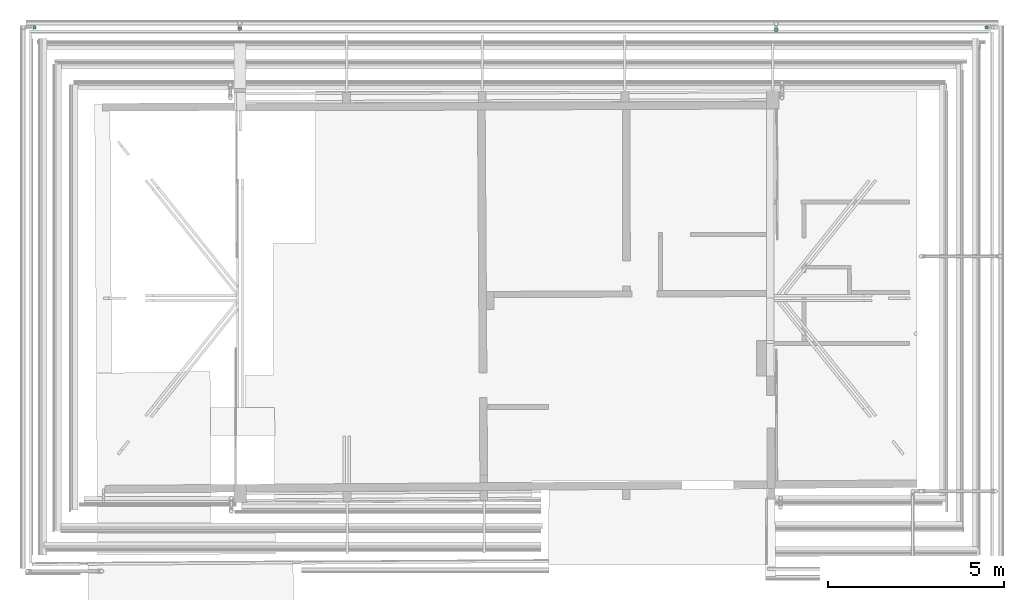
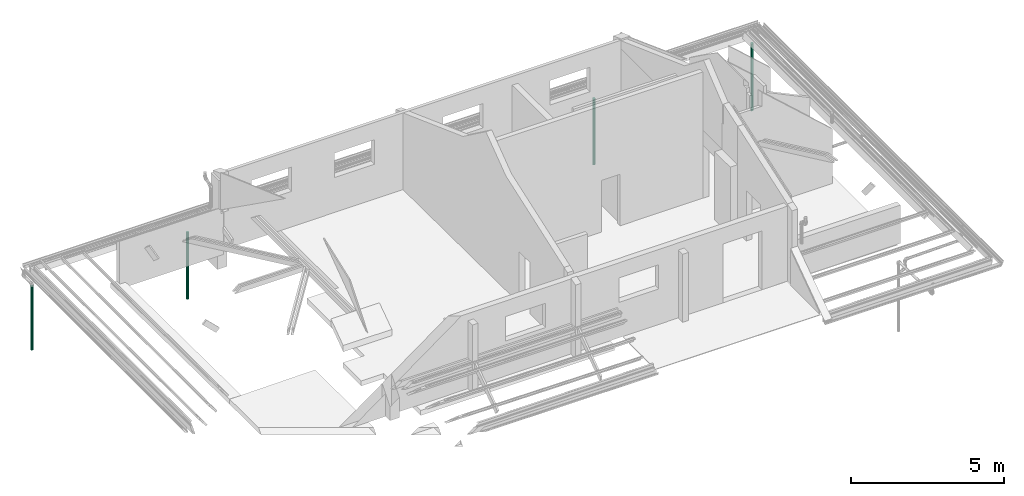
# One storey, part 11 of 15: 4 flow segments.
"""IFC2X3 building model written with IfcOpenShell, lengths in centimetres."""

import ifcopenshell
import ifcopenshell.guid

model = None  # the IFC model being written
_history = None  # IfcOwnerHistory: only IFC2X3 demands one
_inside = {}  # id of a spatial element -> (the spatial element, [elements in it])
_under = {}  # id of a project, library or spatial element -> (it, [spatial elements below it])
_declared = {}  # id of a project -> (the project, [libraries it declares])
_typed = {}  # id of a type object -> (the type object, [elements of that type])
_made_of = {}  # id of a material, layer set ... -> (it, [elements and type objects made of it])


def new_model(schema):
    """Start an empty IFC model of exactly this schema.

    Asked for "IFC4X3", IfcOpenShell would pick the latest addendum, in which some entities
    have other attributes; the version numbers below select the first issue.
    IFC2X3 requires an IfcOwnerHistory on every rooted entity: one is made here for all.
    """
    global model, _history
    if schema == "IFC4X3":
        model = ifcopenshell.file(schema_version=(4, 3, 0, 0))
    else:
        model = ifcopenshell.file(schema=schema)
    _inside.clear()
    _under.clear()
    _declared.clear()
    _typed.clear()
    _made_of.clear()
    _history = None
    if model.schema == "IFC2X3":
        org = make("IfcOrganization", Name="unknown")
        user = make(
            "IfcPersonAndOrganization",
            ThePerson=make("IfcPerson", FamilyName="unknown"),
            TheOrganization=org,
        )
        app = make(
            "IfcApplication",
            ApplicationDeveloper=org,
            Version="unknown",
            ApplicationFullName="unknown",
            ApplicationIdentifier="unknown",
        )
        _history = make(
            "IfcOwnerHistory",
            OwningUser=user,
            OwningApplication=app,
            ChangeAction="ADDED",
            CreationDate=0,
        )
    return model


def make(cls, **values):
    """One entity of the class cls with the attributes given. An attribute that is None is left unset."""
    return model.create_entity(
        cls, **{name: value for name, value in values.items() if value is not None}
    )


def entity(cls, *values):
    """Any entity or typed value of the class cls, its attributes in the order of the schema. None: left unset."""
    e = model.create_entity(cls)
    for i, value in enumerate(values):
        if value is not None:
            e[i] = value
    return e


def rooted(cls, **values):
    """An entity with a GlobalId (a new one), such as an element, a storey or a relation."""
    return make(cls, GlobalId=ifcopenshell.guid.new(), OwnerHistory=_history, **values)


def si_unit(unit_type, name, prefix=None):
    """IfcSIUnit, for example si_unit("LENGTHUNIT", "METRE", prefix="MILLI")."""
    return make("IfcSIUnit", UnitType=unit_type, Prefix=prefix, Name=name)


def converted_unit(unit_type, name, factor, base, dimensions=None, offset=None):
    """IfcConversionBasedUnit, such as the inch: factor (a typed value) times the base unit."""
    return make(
        "IfcConversionBasedUnit"
        if offset is None
        else "IfcConversionBasedUnitWithOffset",
        ConversionOffset=offset,
        Dimensions=None
        if dimensions is None
        else entity("IfcDimensionalExponents", *dimensions),
        UnitType=unit_type,
        Name=name,
        ConversionFactor=make(
            "IfcMeasureWithUnit", ValueComponent=factor, UnitComponent=base
        ),
    )


def assignment(units):
    """IfcUnitAssignment: the units of a project."""
    return None if units is None else make("IfcUnitAssignment", Units=units)


def point(xyz):
    """IfcCartesianPoint."""
    return None if xyz is None else make("IfcCartesianPoint", Coordinates=xyz)


def direction(xyz):
    """IfcDirection."""
    return None if xyz is None else make("IfcDirection", DirectionRatios=xyz)


def frame(location, z_axis=None, x_axis=None):
    """IfcAxis2Placement3D, a coordinate frame: its origin and axes. An axis left out is left unset."""
    return make(
        "IfcAxis2Placement3D",
        Location=point(location),
        Axis=direction(z_axis),
        RefDirection=direction(x_axis),
    )


def frame_2d(location, x_axis=None):
    """IfcAxis2Placement2D, a coordinate frame in the plane: its origin and x axis."""
    return make(
        "IfcAxis2Placement2D", Location=point(location), RefDirection=direction(x_axis)
    )


def origin():
    """The frame at (0, 0, 0) with its axes left unset."""
    return frame((0.0, 0.0, 0.0))


def origin_2d_with_axis():
    """The frame at (0, 0) in the plane with the x axis (1, 0) written out."""
    return frame_2d((0.0, 0.0), x_axis=(1.0, 0.0))


def place(relative_to, where):
    """IfcLocalPlacement: puts the frame where relative to a parent placement (None: the world)."""
    return make(
        "IfcLocalPlacement", PlacementRelTo=relative_to, RelativePlacement=where
    )


def context(
    kind, dimensions, precision=None, world=None, true_north=None, identifier=None
):
    """IfcGeometricRepresentationContext, for example the 3D "Model" context."""
    return make(
        "IfcGeometricRepresentationContext",
        ContextIdentifier=identifier,
        ContextType=kind,
        CoordinateSpaceDimension=dimensions,
        Precision=precision,
        WorldCoordinateSystem=world,
        TrueNorth=true_north,
    )


def subcontext(parent, identifier, kind, view, scale=None):
    """IfcGeometricRepresentationSubContext, for example "Body" below "Model"."""
    return make(
        "IfcGeometricRepresentationSubContext",
        ContextIdentifier=identifier,
        ContextType=kind,
        ParentContext=parent,
        TargetScale=scale,
        TargetView=view,
    )


def project(units=None, contexts=None):
    """IfcProject with its units and contexts."""
    return rooted(
        "IfcProject",
        Name="project",
        RepresentationContexts=contexts,
        UnitsInContext=assignment(units),
    )


def spatial(cls, under=None, at=None, **own):
    """A site, building, storey or space (cls), placed at a placement, below another one or the project."""
    s = rooted(cls, ObjectPlacement=at, **own)
    if under is not None:
        _under.setdefault(under.id(), (under, []))[1].append(s)
    return s


def profile(cls, at=None, kind="AREA", **sizes):
    """A parametric profile (cls). Its sizes go by their IFC names, for example OverallWidth=200.0."""
    return make(cls, ProfileType=kind, Position=at, **sizes)


def circle(**sizes):
    """IfcCircleProfileDef."""
    return profile("IfcCircleProfileDef", **sizes)


def extrude(swept, where, along, depth):
    """IfcExtrudedAreaSolid: the profile swept, set in the frame where, extruded along a direction by depth."""
    return make(
        "IfcExtrudedAreaSolid",
        SweptArea=swept,
        Position=where,
        ExtrudedDirection=direction(along),
        Depth=depth,
    )


def shape(context_of_items, identifier, shape_type, items):
    """IfcShapeRepresentation: the items that make up one representation, for example the "Body"."""
    return make(
        "IfcShapeRepresentation",
        ContextOfItems=context_of_items,
        RepresentationIdentifier=identifier,
        RepresentationType=shape_type,
        Items=items,
    )


def made_of(thing, what):
    """Note that an element or type object is made of a material, layer set ...; save() writes the relation."""
    if what is not None:
        _made_of.setdefault(what.id(), (what, []))[1].append(thing)
    return thing


def type_object(cls, material=None, **own):
    """A type object (cls), such as IfcWallType, which elements share."""
    return made_of(rooted(cls, **own), material)


def element(
    cls,
    number,
    at=None,
    inside=None,
    cuts=None,
    type_object=None,
    material=None,
    context=None,
    identifier="Body",
    shape_type=None,
    held_by="IfcProductDefinitionShape",
    body=None,
    shapes=None,
    **own,
):
    """One element of the class cls, such as IfcWall. Its Tag is "e" and its number.

    at: its placement. inside: the storey or other place that contains it. cuts: it is an
    opening in that element (IfcRelVoidsElement). A single representation is given by context,
    identifier, shape_type and body (its items); several are given by shapes. held_by: the class
    of the entity that holds the representations. save() writes the other relations.
    """
    e = rooted(cls, Tag="e%d" % number, ObjectPlacement=at, **own)
    if body is not None:
        shapes = [shape(context, identifier, shape_type, body)]
    if shapes is not None:
        e.Representation = make(held_by, Representations=shapes)
    if inside is not None:
        _inside.setdefault(inside.id(), (inside, []))[1].append(e)
    if cuts is not None:
        rooted(
            "IfcRelVoidsElement", RelatingBuildingElement=cuts, RelatedOpeningElement=e
        )
    if type_object is not None:
        _typed.setdefault(type_object.id(), (type_object, []))[1].append(e)
    return made_of(e, material)


def aggregate(whole, parts):
    """IfcRelAggregates: a whole, such as a stair, and the parts it consists of."""
    return rooted("IfcRelAggregates", RelatingObject=whole, RelatedObjects=parts)


def save(model, path):
    """Write the relations noted so far, then the file.

    IfcRelAggregates (storeys below a building ...), IfcRelContainedInSpatialStructure (elements
    in a storey), IfcRelDefinesByType, IfcRelAssociatesMaterial and IfcRelDeclares: one each for
    every whole, place, type object, material and project.
    """
    for whole, parts in _under.values():
        aggregate(whole, parts)
    for where, things in _inside.values():
        rooted(
            "IfcRelContainedInSpatialStructure",
            RelatedElements=things,
            RelatingStructure=where,
        )
    for kind, things in _typed.values():
        rooted("IfcRelDefinesByType", RelatedObjects=things, RelatingType=kind)
    for what, things in _made_of.values():
        rooted("IfcRelAssociatesMaterial", RelatedObjects=things, RelatingMaterial=what)
    for by, libraries in _declared.values():
        rooted("IfcRelDeclares", RelatingContext=by, RelatedDefinitions=libraries)
    model.write(path)


model = new_model("IFC2X3")

# Units and contexts
model_context = context("Model", 3, precision=0.001, world=frame((0.0, 0.0, 13090.0)), true_north=direction((6.123233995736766e-17, 1.0)))
body_context = subcontext(model_context, "Body", "Model", "MODEL_VIEW")
ifc_project = project(units=[si_unit("LENGTHUNIT", "METRE", prefix="CENTI"), si_unit("AREAUNIT", "SQUARE_METRE"), si_unit("VOLUMEUNIT", "CUBIC_METRE"), converted_unit("PLANEANGLEUNIT", "DEGREE", entity("IfcPlaneAngleMeasure", 0.017453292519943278), si_unit("PLANEANGLEUNIT", "RADIAN"), dimensions=[0, 0, 0, 0, 0, 0, 0])], contexts=[model_context])

# Site, building, storey
site_placement = place(None, origin())
site = spatial("IfcSite", under=ifc_project, at=site_placement, Name="Default", CompositionType="ELEMENT")
building_placement = place(site_placement, origin())
building = spatial("IfcBuilding", under=site, at=building_placement, Name="e 39 logements et 22 maisons relais", CompositionType="ELEMENT")
storey_placement = place(building_placement, frame((0.0, 0.0, 340.0)))
storey = spatial("IfcBuildingStorey", under=building, at=storey_placement, Name="R+1", CompositionType="ELEMENT", Elevation=339.99999999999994)

# Flow segments
pipe_segment_type = type_object("IfcPipeSegmentType", Name="Canalisation:Par défaut", PredefinedType="NOTDEFINED")
flow_segment_1_placement = place(storey_placement, origin())
element("IfcFlowSegment", 1, at=flow_segment_1_placement, inside=storey, type_object=pipe_segment_type, Name="Canalisation:Par défaut", ObjectType="Canalisation:Par défaut", context=body_context, shape_type="SweptSolid", body=[
    extrude(circle(Radius=5.0, at=frame_2d((0.0, 1.0828671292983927e-13), x_axis=(1.0, 0.0))), frame((-913.2344357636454, 743.9041466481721, -337.169732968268)), (0.0, 0.0, 1.0), 265.28376000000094),
])
flow_segment_2_placement = place(storey_placement, origin())
element("IfcFlowSegment", 2, at=flow_segment_2_placement, inside=storey, type_object=pipe_segment_type, Name="Canalisation:Par défaut", ObjectType="Canalisation:Par défaut", context=body_context, shape_type="SweptSolid", body=[
    extrude(circle(Radius=5.0, at=origin_2d_with_axis()), frame((-1497.3668612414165, 746.9968022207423, -337.16973296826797)), (0.0, 0.0, 1.0), 253.1837600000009),
])
flow_segment_3_placement = place(storey_placement, origin())
element("IfcFlowSegment", 3, at=flow_segment_3_placement, inside=storey, type_object=pipe_segment_type, Name="Canalisation:Par défaut", ObjectType="Canalisation:Par défaut", context=body_context, shape_type="SweptSolid", body=[
    extrude(circle(Radius=5.0, at=origin_2d_with_axis()), frame((613.0959436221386, 740.0464002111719, -335.41415833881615)), (0.0, 0.0, 1.0), 263.5837600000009),
])
flow_segment_4_placement = place(storey_placement, origin())
element("IfcFlowSegment", 4, at=flow_segment_4_placement, inside=storey, type_object=pipe_segment_type, Name="Canalisation:Par défaut", ObjectType="Canalisation:Par défaut", context=body_context, shape_type="SweptSolid", body=[
    extrude(circle(Radius=5.0, at=frame_2d((0.0, 1.0828671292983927e-13), x_axis=(1.0, 0.0))), frame((1211.7343840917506, 746.9620554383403, -334.5314474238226)), (0.0, 0.0, 1.0), 268.2875000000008),
])

save(model, "model.ifc")
